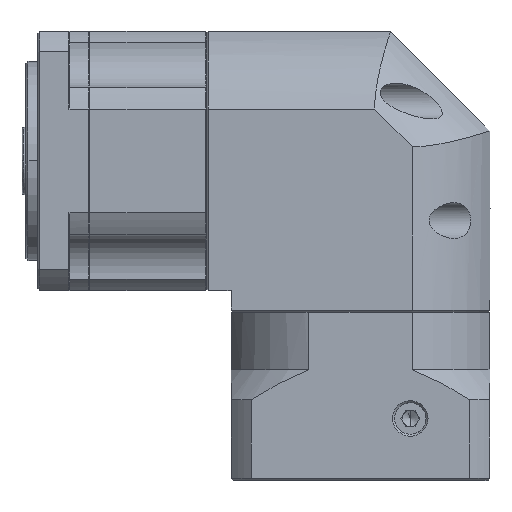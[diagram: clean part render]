
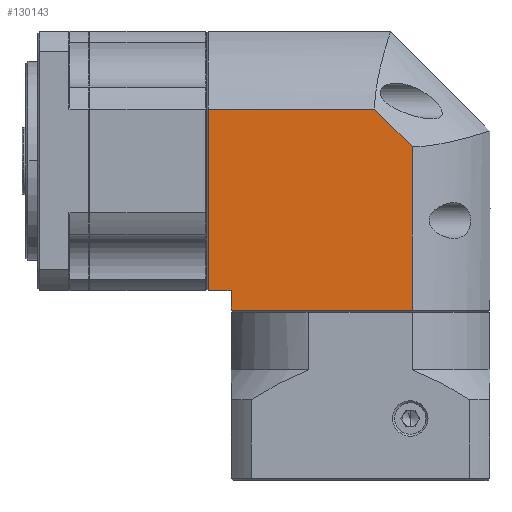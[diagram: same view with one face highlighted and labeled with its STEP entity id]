
A CAD part, top view. The second image highlights one B-rep face of the part: STEP entity #130143.
In plain terms, the highlighted planar face has unit normal (0, 0, 1).
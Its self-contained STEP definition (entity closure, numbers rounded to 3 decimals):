
#59 = VERTEX_POINT ( 'NONE', #49337 ) ;
#5210 = VERTEX_POINT ( 'NONE', #99078 ) ;
#5582 = CARTESIAN_POINT ( 'NONE',  ( -19.591, -56.083, -96.7 ) ) ;
#10126 = DIRECTION ( 'NONE',  ( -1., 0., 0. ) ) ;
#10156 = CARTESIAN_POINT ( 'NONE',  ( 35.9, -56.083, -96.7 ) ) ;
#12863 = VECTOR ( 'NONE', #33623, 1000. ) ;
#13868 = EDGE_CURVE ( 'NONE', #59, #135676, #107717, .T. ) ;
#20772 = CARTESIAN_POINT ( 'NONE',  ( -9.591, -51.083, -96.7 ) ) ;
#24045 = ORIENTED_EDGE ( 'NONE', *, *, #53770, .T. ) ;
#26722 = LINE ( 'NONE', #53308, #59529 ) ;
#32734 = AXIS2_PLACEMENT_3D ( 'NONE', #111897, #37765, #124445 ) ;
#33623 = DIRECTION ( 'NONE',  ( 0., -1., 0. ) ) ;
#35092 = ORIENTED_EDGE ( 'NONE', *, *, #124200, .T. ) ;
#37765 = DIRECTION ( 'NONE',  ( 0., 0., -1. ) ) ;
#43610 = EDGE_LOOP ( 'NONE', ( #24045, #35092, #105358, #54461, #47634, #127681, #56049 ) ) ;
#45432 = CARTESIAN_POINT ( 'NONE',  ( 35.9, -15.09, -96.7 ) ) ;
#45482 = FACE_OUTER_BOUND ( 'NONE', #43610, .T. ) ;
#47634 = ORIENTED_EDGE ( 'NONE', *, *, #51597, .T. ) ;
#49337 = CARTESIAN_POINT ( 'NONE',  ( -15.291, -5.593, -96.7 ) ) ;
#49749 = CARTESIAN_POINT ( 'NONE',  ( -9.591, 13.917, -96.7 ) ) ;
#51597 = EDGE_CURVE ( 'NONE', #135676, #138090, #92099, .T. ) ;
#53308 = CARTESIAN_POINT ( 'NONE',  ( -334.902, 355.712, -96.7 ) ) ;
#53770 = EDGE_CURVE ( 'NONE', #86110, #63421, #101137, .T. ) ;
#54336 = EDGE_CURVE ( 'NONE', #138090, #5210, #132217, .T. ) ;
#54461 = ORIENTED_EDGE ( 'NONE', *, *, #13868, .T. ) ;
#56049 = ORIENTED_EDGE ( 'NONE', *, *, #61262, .T. ) ;
#59529 = VECTOR ( 'NONE', #127677, 1000. ) ;
#61262 = EDGE_CURVE ( 'NONE', #5210, #86110, #139636, .T. ) ;
#62825 = VERTEX_POINT ( 'NONE', #158063 ) ;
#63421 = VERTEX_POINT ( 'NONE', #45432 ) ;
#79556 = DIRECTION ( 'NONE',  ( 1., 0., 0. ) ) ;
#86110 = VERTEX_POINT ( 'NONE', #10156 ) ;
#87599 = DIRECTION ( 'NONE',  ( 0., -1., 0. ) ) ;
#92099 = LINE ( 'NONE', #154355, #109520 ) ;
#95087 = DIRECTION ( 'NONE',  ( 0., 1., 0. ) ) ;
#96629 = CARTESIAN_POINT ( 'NONE',  ( 55.409, -5.593, -96.7 ) ) ;
#97270 = VECTOR ( 'NONE', #95087, 1000. ) ;
#97917 = CARTESIAN_POINT ( 'NONE',  ( -15.291, -51.083, -96.7 ) ) ;
#99078 = CARTESIAN_POINT ( 'NONE',  ( -9.591, -56.083, -96.7 ) ) ;
#101137 = LINE ( 'NONE', #157977, #97270 ) ;
#103083 = VECTOR ( 'NONE', #87599, 1000. ) ;
#104423 = EDGE_CURVE ( 'NONE', #62825, #59, #113205, .T. ) ;
#105056 = DIRECTION ( 'NONE',  ( 1., 0., 0. ) ) ;
#105358 = ORIENTED_EDGE ( 'NONE', *, *, #104423, .T. ) ;
#107717 = LINE ( 'NONE', #97917, #12863 ) ;
#109520 = VECTOR ( 'NONE', #105056, 1000. ) ;
#111897 = CARTESIAN_POINT ( 'NONE',  ( -19.591, 13.917, -96.7 ) ) ;
#113205 = LINE ( 'NONE', #96629, #146230 ) ;
#124200 = EDGE_CURVE ( 'NONE', #63421, #62825, #26722, .T. ) ;
#124445 = DIRECTION ( 'NONE',  ( -1., 0., 0. ) ) ;
#127677 = DIRECTION ( 'NONE',  ( -0.707, 0.707, 0. ) ) ;
#127681 = ORIENTED_EDGE ( 'NONE', *, *, #54336, .T. ) ;
#130143 = ADVANCED_FACE ( 'NONE', ( #45482 ), #136316, .F. ) ;
#132217 = LINE ( 'NONE', #49749, #103083 ) ;
#135676 = VERTEX_POINT ( 'NONE', #158244 ) ;
#135778 = VECTOR ( 'NONE', #79556, 1000. ) ;
#136316 = PLANE ( 'NONE',  #32734 ) ;
#138090 = VERTEX_POINT ( 'NONE', #20772 ) ;
#139636 = LINE ( 'NONE', #5582, #135778 ) ;
#146230 = VECTOR ( 'NONE', #10126, 1000. ) ;
#154355 = CARTESIAN_POINT ( 'NONE',  ( -19.591, -51.083, -96.7 ) ) ;
#157977 = CARTESIAN_POINT ( 'NONE',  ( 35.9, 13.917, -96.7 ) ) ;
#158063 = CARTESIAN_POINT ( 'NONE',  ( 26.402, -5.593, -96.7 ) ) ;
#158244 = CARTESIAN_POINT ( 'NONE',  ( -15.291, -51.083, -96.7 ) ) ;
